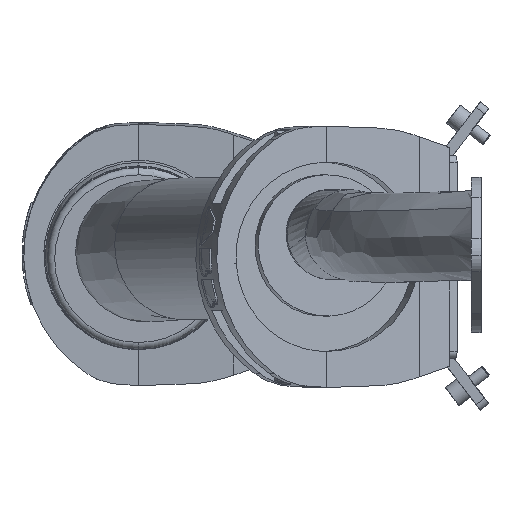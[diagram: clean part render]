
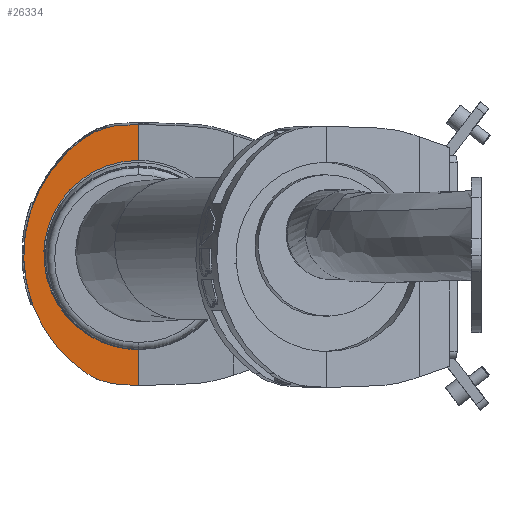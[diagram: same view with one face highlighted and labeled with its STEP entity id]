
A CAD part, left-side view. The second image highlights one B-rep face of the part: STEP entity #26334.
In plain terms, the highlighted planar face has unit normal (-0.999, -0.035, -0.028).
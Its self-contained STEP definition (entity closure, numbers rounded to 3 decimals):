
#643 = EDGE_CURVE ( 'NONE', #25922, #14143, #678, .T. ) ;
#678 = LINE ( 'NONE', #15134, #5199 ) ;
#1418 = LINE ( 'NONE', #7715, #22713 ) ;
#1663 = EDGE_CURVE ( 'NONE', #7647, #7327, #16456, .T. ) ;
#2704 = CARTESIAN_POINT ( 'NONE',  ( 1813.564, 313.598, 2332.319 ) ) ;
#3209 = CARTESIAN_POINT ( 'NONE',  ( 1818.247, 291.983, 2192.629 ) ) ;
#3400 =( BOUNDED_CURVE ( )  B_SPLINE_CURVE ( 3, ( #17182, #15135, #7594, #15909 ),
 .UNSPECIFIED., .F., .T. ) 
 B_SPLINE_CURVE_WITH_KNOTS ( ( 4, 4 ),
 ( 0.958, 1.536 ),
 .UNSPECIFIED. ) 
 CURVE ( )  GEOMETRIC_REPRESENTATION_ITEM ( )  RATIONAL_B_SPLINE_CURVE ( ( 1., 0.972, 0.972, 1. ) ) 
 REPRESENTATION_ITEM ( '' )  );
#4979 = CARTESIAN_POINT ( 'NONE',  ( 1814.987, 283., 2319.699 ) ) ;
#5199 = VECTOR ( 'NONE', #21105, 1000. ) ;
#5226 = EDGE_CURVE ( 'NONE', #24271, #25922, #20454, .T. ) ;
#5429 = LINE ( 'NONE', #15801, #10266 ) ;
#5579 = DIRECTION ( 'NONE',  ( 0.035, -0.999, 0.001 ) ) ;
#5581 = VERTEX_POINT ( 'NONE', #24523 ) ;
#5695 = ORIENTED_EDGE ( 'NONE', *, *, #15955, .F. ) ;
#6661 = CARTESIAN_POINT ( 'NONE',  ( 1814.532, 363.997, 2235.246 ) ) ;
#7327 = VERTEX_POINT ( 'NONE', #19982 ) ;
#7533 = VECTOR ( 'NONE', #14205, 1000. ) ;
#7594 = CARTESIAN_POINT ( 'NONE',  ( 1813.849, 299.794, 2339.314 ) ) ;
#7647 = VERTEX_POINT ( 'NONE', #22591 ) ;
#7715 = CARTESIAN_POINT ( 'NONE',  ( 1818.623, 281.499, 2192.274 ) ) ;
#7768 = DIRECTION ( 'NONE',  ( 0.999, 0.035, 0.028 ) ) ;
#8105 = CARTESIAN_POINT ( 'NONE',  ( 1813.722, 338.765, 2295.417 ) ) ;
#8577 = CARTESIAN_POINT ( 'NONE',  ( 1818., 283., 2212.542 ) ) ;
#9861 = CARTESIAN_POINT ( 'NONE',  ( 1814.419, 283., 2339.917 ) ) ;
#10266 = VECTOR ( 'NONE', #13630, 1000. ) ;
#10724 = CARTESIAN_POINT ( 'NONE',  ( 1814.114, 291.983, 2339.595 ) ) ;
#10771 = AXIS2_PLACEMENT_3D ( 'NONE', #18252, #7768, #5579 ) ;
#11204 = VERTEX_POINT ( 'NONE', #24667 ) ;
#11738 = EDGE_LOOP ( 'NONE', ( #16400, #20535, #22045, #15287, #18190, #22546, #5695, #16414, #26305 ) ) ;
#13296 = CARTESIAN_POINT ( 'NONE',  ( 1814.732, 336.471, 2262.362 ) ) ;
#13630 = DIRECTION ( 'NONE',  ( 0.028, 0., -1. ) ) ;
#13907 = FACE_OUTER_BOUND ( 'NONE', #11738, .T. ) ;
#14143 = VERTEX_POINT ( 'NONE', #4979 ) ;
#14205 = DIRECTION ( 'NONE',  ( 0.034, -0.999, 0.036 ) ) ;
#14316 = EDGE_CURVE ( 'NONE', #7327, #24271, #3400, .T. ) ;
#14604 = EDGE_CURVE ( 'NONE', #14143, #18899, #15446, .T. ) ;
#14981 = CARTESIAN_POINT ( 'NONE',  ( 1812.801, 363.997, 2296.837 ) ) ;
#15134 = CARTESIAN_POINT ( 'NONE',  ( 1814.419, 283., 2339.917 ) ) ;
#15135 = CARTESIAN_POINT ( 'NONE',  ( 1813.66, 307.204, 2336.82 ) ) ;
#15287 = ORIENTED_EDGE ( 'NONE', *, *, #14316, .F. ) ;
#15446 =( BOUNDED_CURVE ( )  B_SPLINE_CURVE ( 3, ( #18461, #26763, #8105, #16417 ),
 .UNSPECIFIED., .F., .F. ) 
 B_SPLINE_CURVE_WITH_KNOTS ( ( 4, 4 ),
 ( 1.571, 3.211 ),
 .UNSPECIFIED. ) 
 CURVE ( )  GEOMETRIC_REPRESENTATION_ITEM ( )  RATIONAL_B_SPLINE_CURVE ( ( 1., 0.788, 0.788, 1. ) ) 
 REPRESENTATION_ITEM ( '' )  );
#15759 = CARTESIAN_POINT ( 'NONE',  ( 1817.966, 299.794, 2192.894 ) ) ;
#15801 = CARTESIAN_POINT ( 'NONE',  ( 1814.419, 283., 2339.917 ) ) ;
#15909 = CARTESIAN_POINT ( 'NONE',  ( 1814.114, 291.983, 2339.595 ) ) ;
#15955 = EDGE_CURVE ( 'NONE', #21266, #11204, #1418, .T. ) ;
#16400 = ORIENTED_EDGE ( 'NONE', *, *, #14604, .F. ) ;
#16414 = ORIENTED_EDGE ( 'NONE', *, *, #24100, .F. ) ;
#16417 = CARTESIAN_POINT ( 'NONE',  ( 1814.732, 336.471, 2262.362 ) ) ;
#16456 =( BOUNDED_CURVE ( )  B_SPLINE_CURVE ( 3, ( #19206, #6661, #14981, #2704 ),
 .UNSPECIFIED., .F., .T. ) 
 B_SPLINE_CURVE_WITH_KNOTS ( ( 4, 4 ),
 ( 5.325, 7.241 ),
 .UNSPECIFIED. ) 
 CURVE ( )  GEOMETRIC_REPRESENTATION_ITEM ( )  RATIONAL_B_SPLINE_CURVE ( ( 1., 0.717, 0.717, 1. ) ) 
 REPRESENTATION_ITEM ( '' )  );
#17182 = CARTESIAN_POINT ( 'NONE',  ( 1813.564, 313.598, 2332.319 ) ) ;
#18190 = ORIENTED_EDGE ( 'NONE', *, *, #1663, .F. ) ;
#18252 = CARTESIAN_POINT ( 'NONE',  ( 1811.763, 338., 2366.027 ) ) ;
#18289 = CARTESIAN_POINT ( 'NONE',  ( 1814.47, 281.499, 2339.971 ) ) ;
#18461 = CARTESIAN_POINT ( 'NONE',  ( 1814.987, 283., 2319.699 ) ) ;
#18899 = VERTEX_POINT ( 'NONE', #13296 ) ;
#18929 = CARTESIAN_POINT ( 'NONE',  ( 1816.964, 312.701, 2212.513 ) ) ;
#19206 = CARTESIAN_POINT ( 'NONE',  ( 1817.288, 313.598, 2199.863 ) ) ;
#19459 = EDGE_CURVE ( 'NONE', #18899, #5581, #22723, .T. ) ;
#19982 = CARTESIAN_POINT ( 'NONE',  ( 1813.564, 313.598, 2332.319 ) ) ;
#20357 = DIRECTION ( 'NONE',  ( -0.036, 0.999, 0.034 ) ) ;
#20413 = PLANE ( 'NONE',  #10771 ) ;
#20454 = LINE ( 'NONE', #18289, #7533 ) ;
#20535 = ORIENTED_EDGE ( 'NONE', *, *, #643, .F. ) ;
#20951 = CARTESIAN_POINT ( 'NONE',  ( 1815.636, 334.416, 2232.746 ) ) ;
#21105 = DIRECTION ( 'NONE',  ( 0.028, 0., -1. ) ) ;
#21266 = VERTEX_POINT ( 'NONE', #25358 ) ;
#22030 = CARTESIAN_POINT ( 'NONE',  ( 1817.288, 313.598, 2199.863 ) ) ;
#22045 = ORIENTED_EDGE ( 'NONE', *, *, #5226, .F. ) ;
#22152 = CARTESIAN_POINT ( 'NONE',  ( 1817.638, 307.204, 2195.374 ) ) ;
#22546 = ORIENTED_EDGE ( 'NONE', *, *, #24510, .F. ) ;
#22591 = CARTESIAN_POINT ( 'NONE',  ( 1817.288, 313.598, 2199.863 ) ) ;
#22713 = VECTOR ( 'NONE', #20357, 1000. ) ;
#22723 =( BOUNDED_CURVE ( )  B_SPLINE_CURVE ( 3, ( #23017, #20951, #18929, #8577 ),
 .UNSPECIFIED., .F., .T. ) 
 B_SPLINE_CURVE_WITH_KNOTS ( ( 4, 4 ),
 ( 3.211, 4.712 ),
 .UNSPECIFIED. ) 
 CURVE ( )  GEOMETRIC_REPRESENTATION_ITEM ( )  RATIONAL_B_SPLINE_CURVE ( ( 1., 0.821, 0.821, 1. ) ) 
 REPRESENTATION_ITEM ( '' )  );
#23017 = CARTESIAN_POINT ( 'NONE',  ( 1814.732, 336.471, 2262.362 ) ) ;
#24100 = EDGE_CURVE ( 'NONE', #5581, #21266, #5429, .T. ) ;
#24271 = VERTEX_POINT ( 'NONE', #10724 ) ;
#24510 = EDGE_CURVE ( 'NONE', #11204, #7647, #26254, .T. ) ;
#24523 = CARTESIAN_POINT ( 'NONE',  ( 1818., 283., 2212.542 ) ) ;
#24667 = CARTESIAN_POINT ( 'NONE',  ( 1818.247, 291.983, 2192.629 ) ) ;
#25358 = CARTESIAN_POINT ( 'NONE',  ( 1818.569, 283., 2192.325 ) ) ;
#25922 = VERTEX_POINT ( 'NONE', #9861 ) ;
#26254 =( BOUNDED_CURVE ( )  B_SPLINE_CURVE ( 3, ( #3209, #15759, #22152, #22030 ),
 .UNSPECIFIED., .F., .F. ) 
 B_SPLINE_CURVE_WITH_KNOTS ( ( 4, 4 ),
 ( 4.747, 5.325 ),
 .UNSPECIFIED. ) 
 CURVE ( )  GEOMETRIC_REPRESENTATION_ITEM ( )  RATIONAL_B_SPLINE_CURVE ( ( 1., 0.972, 0.972, 1. ) ) 
 REPRESENTATION_ITEM ( '' )  );
#26305 = ORIENTED_EDGE ( 'NONE', *, *, #19459, .F. ) ;
#26334 = ADVANCED_FACE ( 'NONE', ( #13907 ), #20413, .F. ) ;
#26763 = CARTESIAN_POINT ( 'NONE',  ( 1813.83, 316.15, 2319.667 ) ) ;
